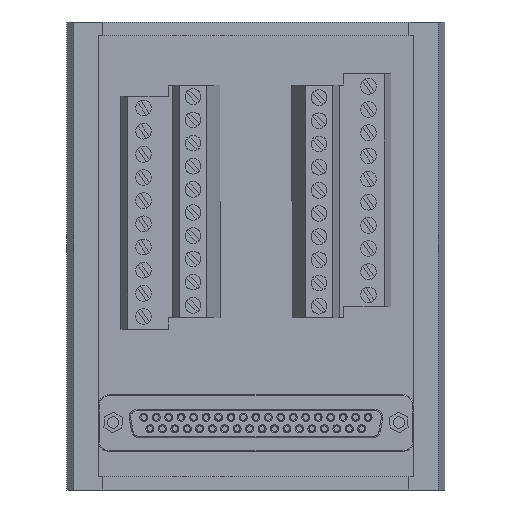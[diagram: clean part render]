
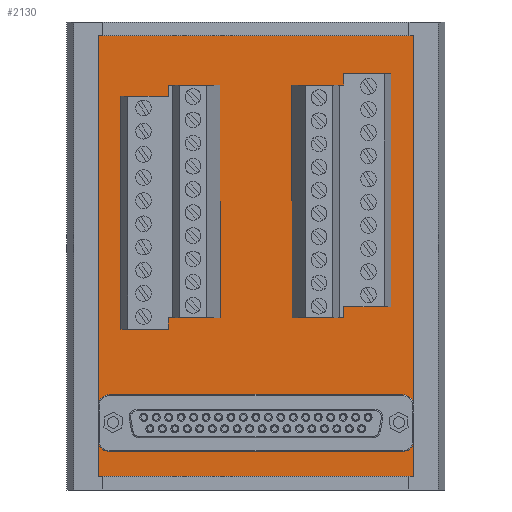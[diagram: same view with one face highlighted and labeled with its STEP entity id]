
A CAD part, left-side view. The second image highlights one B-rep face of the part: STEP entity #2130.
In plain terms, the highlighted planar face has unit normal (-1, 0, 0).
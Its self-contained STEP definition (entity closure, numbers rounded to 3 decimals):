
#85 = DIRECTION ( 'NONE',  ( -1., 0., 0. ) ) ;
#117 = CARTESIAN_POINT ( 'NONE',  ( -15., -35., 49. ) ) ;
#442 = DIRECTION ( 'NONE',  ( -1., 0., 0. ) ) ;
#517 = CARTESIAN_POINT ( 'NONE',  ( -15., 35., 49. ) ) ;
#586 = ORIENTED_EDGE ( 'NONE', *, *, #22506, .F. ) ;
#765 = LINE ( 'NONE', #6028, #5660 ) ;
#1138 = VECTOR ( 'NONE', #18332, 1000. ) ;
#1815 = EDGE_CURVE ( 'NONE', #26181, #25105, #16946, .T. ) ;
#2130 = ADVANCED_FACE ( 'NONE', ( #4738, #10974, #21494 ), #18304, .T. ) ;
#2613 = ORIENTED_EDGE ( 'NONE', *, *, #13162, .T. ) ;
#2812 = CARTESIAN_POINT ( 'NONE',  ( -15., 31.75, -37. ) ) ;
#2940 = DIRECTION ( 'NONE',  ( 0., -1., 0. ) ) ;
#3299 = AXIS2_PLACEMENT_3D ( 'NONE', #13032, #442, #15161 ) ;
#3365 = CARTESIAN_POINT ( 'NONE',  ( -15., -31.75, -38. ) ) ;
#3676 = VERTEX_POINT ( 'NONE', #517 ) ;
#4657 = CIRCLE ( 'NONE', #11831, 1. ) ;
#4738 = FACE_BOUND ( 'NONE', #7431, .T. ) ;
#4783 = CARTESIAN_POINT ( 'NONE',  ( -15., -31.75, -36. ) ) ;
#4935 = VERTEX_POINT ( 'NONE', #25399 ) ;
#4948 = DIRECTION ( 'NONE',  ( 0., 0., -1. ) ) ;
#5335 = ORIENTED_EDGE ( 'NONE', *, *, #5368, .T. ) ;
#5368 = EDGE_CURVE ( 'NONE', #3676, #20933, #765, .T. ) ;
#5660 = VECTOR ( 'NONE', #16546, 1000. ) ;
#5707 = CARTESIAN_POINT ( 'NONE',  ( -15., 0., 0. ) ) ;
#6028 = CARTESIAN_POINT ( 'NONE',  ( -15., 35., 49. ) ) ;
#7431 = EDGE_LOOP ( 'NONE', ( #26383, #26973 ) ) ;
#7680 = VERTEX_POINT ( 'NONE', #20052 ) ;
#9346 = VERTEX_POINT ( 'NONE', #15668 ) ;
#9436 = CARTESIAN_POINT ( 'NONE',  ( -15., -31.75, -37. ) ) ;
#9962 = DIRECTION ( 'NONE',  ( 0., 0., 1. ) ) ;
#10037 = DIRECTION ( 'NONE',  ( 0., 0., 1. ) ) ;
#10545 = CIRCLE ( 'NONE', #26224, 1. ) ;
#10974 = FACE_BOUND ( 'NONE', #25257, .T. ) ;
#11215 = VECTOR ( 'NONE', #10037, 1000. ) ;
#11540 = DIRECTION ( 'NONE',  ( 0., 0., 1. ) ) ;
#11831 = AXIS2_PLACEMENT_3D ( 'NONE', #12651, #85, #14769 ) ;
#12651 = CARTESIAN_POINT ( 'NONE',  ( -15., 31.75, -37. ) ) ;
#13032 = CARTESIAN_POINT ( 'NONE',  ( -15., -31.75, -37. ) ) ;
#13162 = EDGE_CURVE ( 'NONE', #9346, #22048, #16808, .T. ) ;
#13557 = ORIENTED_EDGE ( 'NONE', *, *, #14065, .F. ) ;
#14065 = EDGE_CURVE ( 'NONE', #7680, #4935, #10545, .T. ) ;
#14769 = DIRECTION ( 'NONE',  ( 0., 0., -1. ) ) ;
#15161 = DIRECTION ( 'NONE',  ( 0., 0., 1. ) ) ;
#15227 = VECTOR ( 'NONE', #2940, 1000. ) ;
#15668 = CARTESIAN_POINT ( 'NONE',  ( -15., -35., -49. ) ) ;
#15875 = LINE ( 'NONE', #17645, #15227 ) ;
#16239 = CARTESIAN_POINT ( 'NONE',  ( -15., -35., 49. ) ) ;
#16546 = DIRECTION ( 'NONE',  ( 0., 0., -1. ) ) ;
#16808 = LINE ( 'NONE', #18380, #11215 ) ;
#16900 = EDGE_CURVE ( 'NONE', #20933, #9346, #15875, .T. ) ;
#16946 = CIRCLE ( 'NONE', #3299, 1. ) ;
#17530 = DIRECTION ( 'NONE',  ( -1., 0., 0. ) ) ;
#17645 = CARTESIAN_POINT ( 'NONE',  ( -15., -35., -49. ) ) ;
#17948 = ORIENTED_EDGE ( 'NONE', *, *, #19835, .T. ) ;
#18304 = PLANE ( 'NONE',  #26230 ) ;
#18332 = DIRECTION ( 'NONE',  ( 0., 1., 0. ) ) ;
#18380 = CARTESIAN_POINT ( 'NONE',  ( -15., -35., 49. ) ) ;
#18822 = ORIENTED_EDGE ( 'NONE', *, *, #16900, .T. ) ;
#19343 = AXIS2_PLACEMENT_3D ( 'NONE', #9436, #24125, #11540 ) ;
#19835 = EDGE_CURVE ( 'NONE', #22048, #3676, #23500, .T. ) ;
#20052 = CARTESIAN_POINT ( 'NONE',  ( -15., 31.75, -36. ) ) ;
#20933 = VERTEX_POINT ( 'NONE', #24971 ) ;
#21494 = FACE_OUTER_BOUND ( 'NONE', #21773, .T. ) ;
#21773 = EDGE_LOOP ( 'NONE', ( #18822, #2613, #17948, #5335 ) ) ;
#22048 = VERTEX_POINT ( 'NONE', #117 ) ;
#22275 = CIRCLE ( 'NONE', #19343, 1. ) ;
#22506 = EDGE_CURVE ( 'NONE', #4935, #7680, #4657, .T. ) ;
#22525 = DIRECTION ( 'NONE',  ( -1., 0., 0. ) ) ;
#23500 = LINE ( 'NONE', #16239, #1138 ) ;
#24125 = DIRECTION ( 'NONE',  ( -1., 0., 0. ) ) ;
#24971 = CARTESIAN_POINT ( 'NONE',  ( -15., 35., -49. ) ) ;
#25105 = VERTEX_POINT ( 'NONE', #4783 ) ;
#25144 = EDGE_CURVE ( 'NONE', #25105, #26181, #22275, .T. ) ;
#25257 = EDGE_LOOP ( 'NONE', ( #13557, #586 ) ) ;
#25399 = CARTESIAN_POINT ( 'NONE',  ( -15., 31.75, -38. ) ) ;
#26181 = VERTEX_POINT ( 'NONE', #3365 ) ;
#26224 = AXIS2_PLACEMENT_3D ( 'NONE', #2812, #17530, #4948 ) ;
#26230 = AXIS2_PLACEMENT_3D ( 'NONE', #5707, #22525, #9962 ) ;
#26383 = ORIENTED_EDGE ( 'NONE', *, *, #25144, .F. ) ;
#26973 = ORIENTED_EDGE ( 'NONE', *, *, #1815, .F. ) ;
